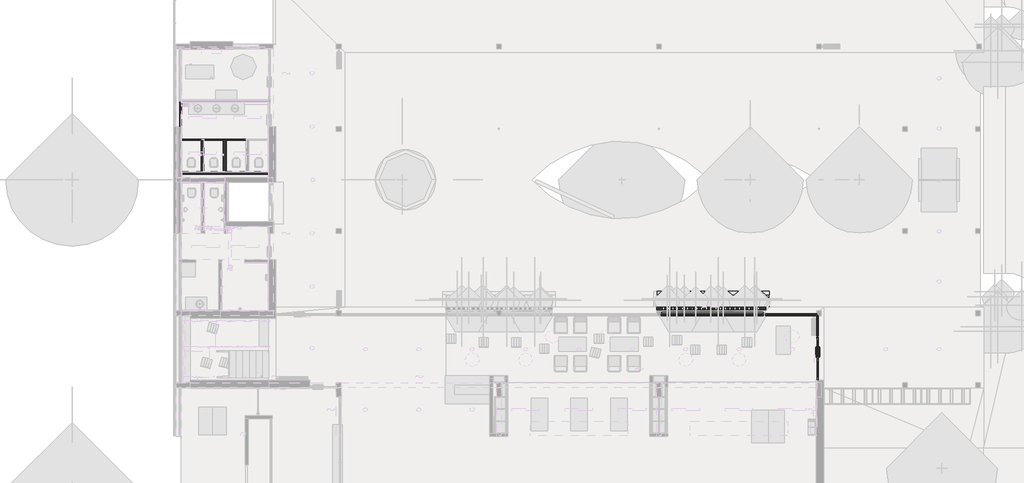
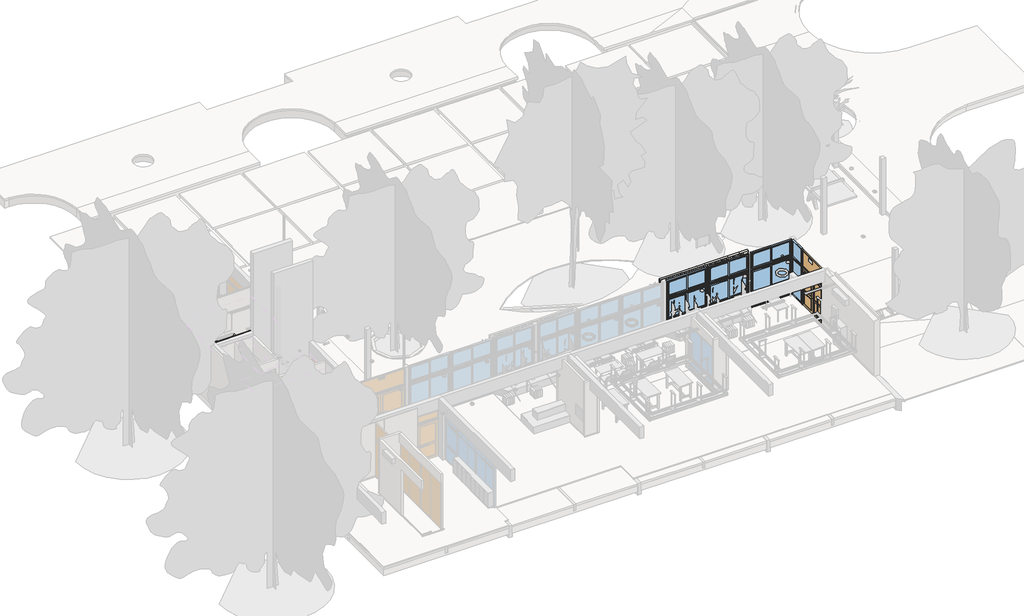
# One storey, part 4 of 22: 11 walls, 4 doors, 4 windows.
"""IFC4 building model written with IfcOpenShell, lengths in millimetres."""

from ifc_helpers import new_model, si_unit, point, frame, frame_2d, origin, place, context, project, spatial, polyline, circle_curve, trimmed, segment, composite_curve, outline, extrude, faceted_brep, transform, mapped, element, save
from components import door_487a2fcd, a15_puerta_boxes_a15_puerta_boxes_85x150_d28bf8b2, window_442d5369, window_79354036, a16_ventana_pc_1_hoja_a16_1_ventana_pc_1_hoja_86x300_f3b2f035, a16_ventana_pc_1_hoja_a16_4_ventana_pc_1_hoja_105x260_403ed5f2

model = new_model("IFC4")

# Units and contexts
model_context = context("Model", 3, world=origin())
ifc_project = project(units=[si_unit("LENGTHUNIT", "METRE", prefix="MILLI")], contexts=[model_context])

# Site, building, storey
site = spatial("IfcSite", under=ifc_project)
building = spatial("IfcBuilding", under=site)
storey = spatial("IfcBuildingStorey", under=building, Name="PLanta baja", Elevation=0.0)

# Doors
placement = place(None, origin())
door_shape = door_487a2fcd(model_context)
element("IfcDoor", 1, ObjectType="A1 Puerta batiente doble  VF superior : A1.4 Puerta batiente doble  VF superior 185x310", at=placement, inside=storey, context=model_context, shape_type="MappedRepresentation", body=[
    mapped(door_shape, transform((30826.2173693, 8256.4804035, -9.1219239), x_axis=(0.0, -1.0, 0.0), y_axis=(1.0, 0.0, 0.0), z_axis=(0.0, 0.0, 1.0))),
])
a15_puerta_boxes_a15_puerta_boxes_85x150_shape = a15_puerta_boxes_a15_puerta_boxes_85x150_d28bf8b2(model_context)
element("IfcDoor", 2, ObjectType="A15 Puerta boxes : A15 Puerta boxes 85x150", at=placement, inside=storey, context=model_context, shape_type="MappedRepresentation", body=[
    mapped(a15_puerta_boxes_a15_puerta_boxes_85x150_shape, transform((3831.2173694, 17682.7304035, 300.0), x_axis=(1.0, 0.0, 0.0), y_axis=(0.0, 1.0, 0.0), z_axis=(0.0, 0.0, 1.0))),
])
element("IfcDoor", 3, ObjectType="A15 Puerta boxes : A15 Puerta boxes 85x150", at=placement, inside=storey, context=model_context, shape_type="MappedRepresentation", body=[
    mapped(a15_puerta_boxes_a15_puerta_boxes_85x150_shape, transform((4796.2173694, 17682.7304035, 300.0), x_axis=(1.0, 0.0, 0.0), y_axis=(0.0, 1.0, 0.0), z_axis=(0.0, 0.0, 1.0))),
])
element("IfcDoor", 4, ObjectType="A15 Puerta boxes : A15 Puerta boxes 85x150", at=placement, inside=storey, context=model_context, shape_type="MappedRepresentation", body=[
    mapped(a15_puerta_boxes_a15_puerta_boxes_85x150_shape, transform((5761.2173694, 17682.7304035, 300.0), x_axis=(1.0, 0.0, 0.0), y_axis=(0.0, 1.0, 0.0), z_axis=(0.0, 0.0, 1.0))),
])

# Walls
element("IfcWall", 5, ObjectType="MURO-INT/INT-M22c-12cm-hceram210cm-PET", at=placement, inside=storey, context=model_context, shape_type="Brep", body=[
    faceted_brep([(4373.7173694, 17720.2304035, 2100.0), (4373.7173694, 16320.2304035, 2100.0), (4373.7173694, 16320.2304035, 2091.0), (4373.7173694, 16320.2304035, 0.0), (4373.7173694, 17720.2304035, 0.0), (4373.7173694, 17720.2304035, 2091.0), (4373.7173694, 17720.2304035, 2091.5), (4253.7173694, 16320.2304035, 2100.0), (4253.7173694, 17720.2304035, 2100.0), (4253.7173694, 17720.2304035, 2091.5), (4253.7173694, 17720.2304035, 2091.0), (4253.7173694, 17720.2304035, 0.0597053), (4253.7173694, 16320.2304035, 0.0), (4253.7173694, 16320.2304035, 2091.0), (4363.7173694, 16320.2304035, -50.0), (4263.7173694, 16320.2304035, -50.0), (4263.7173694, 17720.2304035, -50.0), (4363.7173694, 17720.2304035, -50.0), (4363.7173694, 17720.2304035, 0.0), (4263.7173694, 17720.2304035, 0.0), (4262.7173694, 17711.2304035, 2100.5), (4262.7173694, 16320.2304035, 2100.5), (4364.7173694, 16320.2304035, 2100.5), (4364.7173694, 17711.2304035, 2100.5), (4262.7173694, 16320.2304035, 2100.0), (4263.7173694, 16320.2304035, 0.0), (4363.7173694, 16320.2304035, 0.0), (4364.7173694, 16320.2304035, 2100.0), (4262.7173694, 17711.2304035, 2100.0), (4364.7173694, 17711.2304035, 2100.0)], [[[0, 1, 2, 3, 4, 5, 6]], [[7, 8, 9, 10, 11, 12, 13]], [[14, 15, 16, 17]], [[11, 10, 9, 8, 0, 6, 5, 4, 18, 17, 16, 19]], [[20, 21, 22, 23]], [[24, 7, 13, 12, 25, 15, 14, 26, 3, 2, 1, 27, 22, 21]], [[24, 28, 29, 27, 1, 0, 8, 7]], [[28, 24, 21, 20]], [[27, 29, 23, 22]], [[28, 20, 23, 29]], [[26, 18, 4, 3]], [[19, 25, 12, 11]], [[18, 26, 14, 17]], [[25, 19, 16, 15]]]),
])
element("IfcWall", 6, ObjectType="MURO-Ladrillo hormigón calado-10cm-PET", at=placement, inside=storey, context=model_context, shape_type="SweptSolid", body=[
    extrude(outline(polyline([(-50.0, 28588.7173693), (3100.0, 28588.7173693), (3100.0, 23888.7173694), (-50.0, 23888.7173694), (-50.0, 28588.7173693)]), holes=[polyline([(3090.0, 28228.7173696), (3090.0, 28328.7173699), (2950.0, 28328.7173699), (2950.0, 28228.7173696), (3090.0, 28228.7173696)]), polyline([(3090.0, 28028.7173694), (3090.0, 28128.7173696), (2950.0, 28128.7173696), (2950.0, 28028.7173694), (3090.0, 28028.7173694)]), polyline([(3090.0, 27823.7173694), (3090.0, 27923.7173697), (2950.0, 27923.7173697), (2950.0, 27823.7173694), (3090.0, 27823.7173694)]), polyline([(3090.0, 27623.7173692), (3090.0, 27723.7173694), (2950.0, 27723.7173694), (2950.0, 27623.7173692), (3090.0, 27623.7173692)]), polyline([(3090.0, 27413.7173694), (3090.0, 27513.7173697), (2950.0, 27513.7173697), (2950.0, 27413.7173694), (3090.0, 27413.7173694)]), polyline([(3090.0, 27213.7173692), (3090.0, 27313.7173694), (2950.0, 27313.7173694), (2950.0, 27213.7173692), (3090.0, 27213.7173692)]), polyline([(3090.0, 27008.7173692), (3090.0, 27108.7173694), (2950.0, 27108.7173694), (2950.0, 27008.7173692), (3090.0, 27008.7173692)]), polyline([(3090.0, 26808.717369), (3090.0, 26908.7173692), (2950.0, 26908.7173692), (2950.0, 26808.717369), (3090.0, 26808.717369)]), polyline([(3090.0, 26593.7173695), (3090.0, 26693.7173697), (2950.0, 26693.7173697), (2950.0, 26593.7173695), (3090.0, 26593.7173695)]), polyline([(3090.0, 26393.7173692), (3090.0, 26493.7173695), (2950.0, 26493.7173695), (2950.0, 26393.7173692), (3090.0, 26393.7173692)]), polyline([(3090.0, 26188.7173692), (3090.0, 26288.7173695), (2950.0, 26288.7173695), (2950.0, 26188.7173692), (3090.0, 26188.7173692)]), polyline([(3090.0, 25988.717369), (3090.0, 26088.7173692), (2950.0, 26088.7173692), (2950.0, 25988.717369), (3090.0, 25988.717369)]), polyline([(3090.0, 25778.7173693), (3090.0, 25878.7173695), (2950.0, 25878.7173695), (2950.0, 25778.7173693), (3090.0, 25778.7173693)]), polyline([(3090.0, 25578.717369), (3090.0, 25678.7173693), (2950.0, 25678.7173693), (2950.0, 25578.717369), (3090.0, 25578.717369)]), polyline([(3090.0, 25373.717369), (3090.0, 25473.7173693), (2950.0, 25473.7173693), (2950.0, 25373.717369), (3090.0, 25373.717369)]), polyline([(3090.0, 25173.7173688), (3090.0, 25273.717369), (2950.0, 25273.717369), (2950.0, 25173.7173688), (3090.0, 25173.7173688)]), polyline([(3090.0, 24953.7173695), (3090.0, 25053.7173697), (2950.0, 25053.7173697), (2950.0, 24953.7173695), (3090.0, 24953.7173695)]), polyline([(3090.0, 24753.7173693), (3090.0, 24853.7173695), (2950.0, 24853.7173695), (2950.0, 24753.7173693), (3090.0, 24753.7173693)]), polyline([(3090.0, 24548.7173693), (3090.0, 24648.7173695), (2950.0, 24648.7173695), (2950.0, 24548.7173693), (3090.0, 24548.7173693)]), polyline([(3090.0, 24348.7173691), (3090.0, 24448.7173693), (2950.0, 24448.7173693), (2950.0, 24348.7173691), (3090.0, 24348.7173691)]), polyline([(3090.0, 24138.7173693), (3090.0, 24238.7173695), (2950.0, 24238.7173695), (2950.0, 24138.7173693), (3090.0, 24138.7173693)]), polyline([(2790.0, 28228.7173696), (2790.0, 28328.7173699), (2650.0, 28328.7173699), (2650.0, 28228.7173696), (2790.0, 28228.7173696)]), polyline([(2790.0, 28028.7173694), (2790.0, 28128.7173696), (2650.0, 28128.7173696), (2650.0, 28028.7173694), (2790.0, 28028.7173694)]), polyline([(2790.0, 27823.7173694), (2790.0, 27923.7173697), (2650.0, 27923.7173697), (2650.0, 27823.7173694), (2790.0, 27823.7173694)]), polyline([(2790.0, 27623.7173692), (2790.0, 27723.7173694), (2650.0, 27723.7173694), (2650.0, 27623.7173692), (2790.0, 27623.7173692)]), polyline([(2790.0, 27413.7173694), (2790.0, 27513.7173697), (2650.0, 27513.7173697), (2650.0, 27413.7173694), (2790.0, 27413.7173694)]), polyline([(2790.0, 27213.7173692), (2790.0, 27313.7173694), (2650.0, 27313.7173694), (2650.0, 27213.7173692), (2790.0, 27213.7173692)]), polyline([(2790.0, 27008.7173692), (2790.0, 27108.7173694), (2650.0, 27108.7173694), (2650.0, 27008.7173692), (2790.0, 27008.7173692)]), polyline([(2790.0, 26808.717369), (2790.0, 26908.7173692), (2650.0, 26908.7173692), (2650.0, 26808.717369), (2790.0, 26808.717369)]), polyline([(2790.0, 26593.7173695), (2790.0, 26693.7173697), (2650.0, 26693.7173697), (2650.0, 26593.7173695), (2790.0, 26593.7173695)]), polyline([(2790.0, 26393.7173692), (2790.0, 26493.7173695), (2650.0, 26493.7173695), (2650.0, 26393.7173692), (2790.0, 26393.7173692)]), polyline([(2790.0, 26188.7173692), (2790.0, 26288.7173695), (2650.0, 26288.7173695), (2650.0, 26188.7173692), (2790.0, 26188.7173692)]), polyline([(2790.0, 25988.717369), (2790.0, 26088.7173692), (2650.0, 26088.7173692), (2650.0, 25988.717369), (2790.0, 25988.717369)]), polyline([(2790.0, 25778.7173693), (2790.0, 25878.7173695), (2650.0, 25878.7173695), (2650.0, 25778.7173693), (2790.0, 25778.7173693)]), polyline([(2790.0, 25578.717369), (2790.0, 25678.7173693), (2650.0, 25678.7173693), (2650.0, 25578.717369), (2790.0, 25578.717369)]), polyline([(2790.0, 25373.717369), (2790.0, 25473.7173693), (2650.0, 25473.7173693), (2650.0, 25373.717369), (2790.0, 25373.717369)]), polyline([(2790.0, 25173.7173688), (2790.0, 25273.717369), (2650.0, 25273.717369), (2650.0, 25173.7173688), (2790.0, 25173.7173688)]), polyline([(2790.0, 24953.7173695), (2790.0, 25053.7173697), (2650.0, 25053.7173697), (2650.0, 24953.7173695), (2790.0, 24953.7173695)]), polyline([(2790.0, 24753.7173693), (2790.0, 24853.7173695), (2650.0, 24853.7173695), (2650.0, 24753.7173693), (2790.0, 24753.7173693)]), polyline([(2790.0, 24548.7173693), (2790.0, 24648.7173695), (2650.0, 24648.7173695), (2650.0, 24548.7173693), (2790.0, 24548.7173693)]), polyline([(2790.0, 24348.7173691), (2790.0, 24448.7173693), (2650.0, 24448.7173693), (2650.0, 24348.7173691), (2790.0, 24348.7173691)]), polyline([(2790.0, 24138.7173693), (2790.0, 24238.7173695), (2650.0, 24238.7173695), (2650.0, 24138.7173693), (2790.0, 24138.7173693)]), polyline([(2490.0, 28228.7173696), (2490.0, 28328.7173699), (2350.0, 28328.7173699), (2350.0, 28228.7173696), (2490.0, 28228.7173696)]), polyline([(2490.0, 28028.7173694), (2490.0, 28128.7173696), (2350.0, 28128.7173696), (2350.0, 28028.7173694), (2490.0, 28028.7173694)]), polyline([(2490.0, 27823.7173694), (2490.0, 27923.7173697), (2350.0, 27923.7173697), (2350.0, 27823.7173694), (2490.0, 27823.7173694)]), polyline([(2490.0, 27623.7173692), (2490.0, 27723.7173694), (2350.0, 27723.7173694), (2350.0, 27623.7173692), (2490.0, 27623.7173692)]), polyline([(2490.0, 27413.7173694), (2490.0, 27513.7173697), (2350.0, 27513.7173697), (2350.0, 27413.7173694), (2490.0, 27413.7173694)]), polyline([(2490.0, 27213.7173692), (2490.0, 27313.7173694), (2350.0, 27313.7173694), (2350.0, 27213.7173692), (2490.0, 27213.7173692)]), polyline([(2490.0, 27008.7173692), (2490.0, 27108.7173694), (2350.0, 27108.7173694), (2350.0, 27008.7173692), (2490.0, 27008.7173692)]), polyline([(2490.0, 26808.717369), (2490.0, 26908.7173692), (2350.0, 26908.7173692), (2350.0, 26808.717369), (2490.0, 26808.717369)]), polyline([(2490.0, 26593.7173695), (2490.0, 26693.7173697), (2350.0, 26693.7173697), (2350.0, 26593.7173695), (2490.0, 26593.7173695)]), polyline([(2490.0, 26393.7173692), (2490.0, 26493.7173695), (2350.0, 26493.7173695), (2350.0, 26393.7173692), (2490.0, 26393.7173692)]), polyline([(2490.0, 26188.7173692), (2490.0, 26288.7173695), (2350.0, 26288.7173695), (2350.0, 26188.7173692), (2490.0, 26188.7173692)]), polyline([(2490.0, 25988.717369), (2490.0, 26088.7173692), (2350.0, 26088.7173692), (2350.0, 25988.717369), (2490.0, 25988.717369)]), polyline([(2490.0, 25778.7173693), (2490.0, 25878.7173695), (2350.0, 25878.7173695), (2350.0, 25778.7173693), (2490.0, 25778.7173693)]), polyline([(2490.0, 25578.717369), (2490.0, 25678.7173693), (2350.0, 25678.7173693), (2350.0, 25578.717369), (2490.0, 25578.717369)]), polyline([(2490.0, 25373.717369), (2490.0, 25473.7173693), (2350.0, 25473.7173693), (2350.0, 25373.717369), (2490.0, 25373.717369)]), polyline([(2490.0, 25173.7173688), (2490.0, 25273.717369), (2350.0, 25273.717369), (2350.0, 25173.7173688), (2490.0, 25173.7173688)]), polyline([(2490.0, 24953.7173695), (2490.0, 25053.7173697), (2350.0, 25053.7173697), (2350.0, 24953.7173695), (2490.0, 24953.7173695)]), polyline([(2490.0, 24753.7173693), (2490.0, 24853.7173695), (2350.0, 24853.7173695), (2350.0, 24753.7173693), (2490.0, 24753.7173693)]), polyline([(2490.0, 24548.7173693), (2490.0, 24648.7173695), (2350.0, 24648.7173695), (2350.0, 24548.7173693), (2490.0, 24548.7173693)]), polyline([(2490.0, 24348.7173691), (2490.0, 24448.7173693), (2350.0, 24448.7173693), (2350.0, 24348.7173691), (2490.0, 24348.7173691)]), polyline([(2490.0, 24138.7173693), (2490.0, 24238.7173695), (2350.0, 24238.7173695), (2350.0, 24138.7173693), (2490.0, 24138.7173693)]), polyline([(2190.0, 28228.7173696), (2190.0, 28328.7173699), (2050.0, 28328.7173699), (2050.0, 28228.7173696), (2190.0, 28228.7173696)]), polyline([(2190.0, 28028.7173694), (2190.0, 28128.7173696), (2050.0, 28128.7173696), (2050.0, 28028.7173694), (2190.0, 28028.7173694)]), polyline([(2190.0, 27823.7173694), (2190.0, 27923.7173697), (2050.0, 27923.7173697), (2050.0, 27823.7173694), (2190.0, 27823.7173694)]), polyline([(2190.0, 27623.7173692), (2190.0, 27723.7173694), (2050.0, 27723.7173694), (2050.0, 27623.7173692), (2190.0, 27623.7173692)]), polyline([(2190.0, 27413.7173694), (2190.0, 27513.7173697), (2050.0, 27513.7173697), (2050.0, 27413.7173694), (2190.0, 27413.7173694)]), polyline([(2190.0, 27213.7173692), (2190.0, 27313.7173694), (2050.0, 27313.7173694), (2050.0, 27213.7173692), (2190.0, 27213.7173692)]), polyline([(2190.0, 27008.7173692), (2190.0, 27108.7173694), (2050.0, 27108.7173694), (2050.0, 27008.7173692), (2190.0, 27008.7173692)]), polyline([(2190.0, 26808.717369), (2190.0, 26908.7173692), (2050.0, 26908.7173692), (2050.0, 26808.717369), (2190.0, 26808.717369)]), polyline([(2190.0, 26593.7173695), (2190.0, 26693.7173697), (2050.0, 26693.7173697), (2050.0, 26593.7173695), (2190.0, 26593.7173695)]), polyline([(2190.0, 26393.7173692), (2190.0, 26493.7173695), (2050.0, 26493.7173695), (2050.0, 26393.7173692), (2190.0, 26393.7173692)]), polyline([(2190.0, 26188.7173692), (2190.0, 26288.7173695), (2050.0, 26288.7173695), (2050.0, 26188.7173692), (2190.0, 26188.7173692)]), polyline([(2190.0, 25988.717369), (2190.0, 26088.7173692), (2050.0, 26088.7173692), (2050.0, 25988.717369), (2190.0, 25988.717369)]), polyline([(2190.0, 25778.7173693), (2190.0, 25878.7173695), (2050.0, 25878.7173695), (2050.0, 25778.7173693), (2190.0, 25778.7173693)]), polyline([(2190.0, 25578.717369), (2190.0, 25678.7173693), (2050.0, 25678.7173693), (2050.0, 25578.717369), (2190.0, 25578.717369)]), polyline([(2190.0, 25373.717369), (2190.0, 25473.7173693), (2050.0, 25473.7173693), (2050.0, 25373.717369), (2190.0, 25373.717369)]), polyline([(2190.0, 25173.7173688), (2190.0, 25273.717369), (2050.0, 25273.717369), (2050.0, 25173.7173688), (2190.0, 25173.7173688)]), polyline([(2190.0, 24953.7173695), (2190.0, 25053.7173697), (2050.0, 25053.7173697), (2050.0, 24953.7173695), (2190.0, 24953.7173695)]), polyline([(2190.0, 24753.7173693), (2190.0, 24853.7173695), (2050.0, 24853.7173695), (2050.0, 24753.7173693), (2190.0, 24753.7173693)]), polyline([(2190.0, 24548.7173693), (2190.0, 24648.7173695), (2050.0, 24648.7173695), (2050.0, 24548.7173693), (2190.0, 24548.7173693)]), polyline([(2190.0, 24348.7173691), (2190.0, 24448.7173693), (2050.0, 24448.7173693), (2050.0, 24348.7173691), (2190.0, 24348.7173691)]), polyline([(2190.0, 24138.7173693), (2190.0, 24238.7173695), (2050.0, 24238.7173695), (2050.0, 24138.7173693), (2190.0, 24138.7173693)]), polyline([(1890.0, 28228.7173696), (1890.0, 28328.7173699), (1750.0, 28328.7173699), (1750.0, 28228.7173696), (1890.0, 28228.7173696)]), polyline([(1890.0, 28028.7173694), (1890.0, 28128.7173696), (1750.0, 28128.7173696), (1750.0, 28028.7173694), (1890.0, 28028.7173694)]), polyline([(1890.0, 27823.7173694), (1890.0, 27923.7173697), (1750.0, 27923.7173697), (1750.0, 27823.7173694), (1890.0, 27823.7173694)]), polyline([(1890.0, 27623.7173692), (1890.0, 27723.7173694), (1750.0, 27723.7173694), (1750.0, 27623.7173692), (1890.0, 27623.7173692)]), polyline([(1890.0, 27413.7173694), (1890.0, 27513.7173697), (1750.0, 27513.7173697), (1750.0, 27413.7173694), (1890.0, 27413.7173694)]), polyline([(1890.0, 27213.7173692), (1890.0, 27313.7173694), (1750.0, 27313.7173694), (1750.0, 27213.7173692), (1890.0, 27213.7173692)]), polyline([(1890.0, 27008.7173692), (1890.0, 27108.7173694), (1750.0, 27108.7173694), (1750.0, 27008.7173692), (1890.0, 27008.7173692)]), polyline([(1890.0, 26808.717369), (1890.0, 26908.7173692), (1750.0, 26908.7173692), (1750.0, 26808.717369), (1890.0, 26808.717369)]), polyline([(1890.0, 26593.7173695), (1890.0, 26693.7173697), (1750.0, 26693.7173697), (1750.0, 26593.7173695), (1890.0, 26593.7173695)]), polyline([(1890.0, 26393.7173692), (1890.0, 26493.7173695), (1750.0, 26493.7173695), (1750.0, 26393.7173692), (1890.0, 26393.7173692)]), polyline([(1890.0, 26188.7173692), (1890.0, 26288.7173695), (1750.0, 26288.7173695), (1750.0, 26188.7173692), (1890.0, 26188.7173692)]), polyline([(1890.0, 25988.717369), (1890.0, 26088.7173692), (1750.0, 26088.7173692), (1750.0, 25988.717369), (1890.0, 25988.717369)]), polyline([(1890.0, 25778.7173693), (1890.0, 25878.7173695), (1750.0, 25878.7173695), (1750.0, 25778.7173693), (1890.0, 25778.7173693)]), polyline([(1890.0, 25578.717369), (1890.0, 25678.7173693), (1750.0, 25678.7173693), (1750.0, 25578.717369), (1890.0, 25578.717369)]), polyline([(1890.0, 25373.717369), (1890.0, 25473.7173693), (1750.0, 25473.7173693), (1750.0, 25373.717369), (1890.0, 25373.717369)]), polyline([(1890.0, 25173.7173688), (1890.0, 25273.717369), (1750.0, 25273.717369), (1750.0, 25173.7173688), (1890.0, 25173.7173688)]), polyline([(1890.0, 24953.7173695), (1890.0, 25053.7173697), (1750.0, 25053.7173697), (1750.0, 24953.7173695), (1890.0, 24953.7173695)]), polyline([(1890.0, 24753.7173693), (1890.0, 24853.7173695), (1750.0, 24853.7173695), (1750.0, 24753.7173693), (1890.0, 24753.7173693)]), polyline([(1890.0, 24548.7173693), (1890.0, 24648.7173695), (1750.0, 24648.7173695), (1750.0, 24548.7173693), (1890.0, 24548.7173693)]), polyline([(1890.0, 24348.7173691), (1890.0, 24448.7173693), (1750.0, 24448.7173693), (1750.0, 24348.7173691), (1890.0, 24348.7173691)]), polyline([(1890.0, 24138.7173693), (1890.0, 24238.7173695), (1750.0, 24238.7173695), (1750.0, 24138.7173693), (1890.0, 24138.7173693)]), polyline([(1590.0, 28228.7173696), (1590.0, 28328.7173699), (1450.0, 28328.7173699), (1450.0, 28228.7173696), (1590.0, 28228.7173696)]), polyline([(1590.0, 28028.7173694), (1590.0, 28128.7173696), (1450.0, 28128.7173696), (1450.0, 28028.7173694), (1590.0, 28028.7173694)]), polyline([(1590.0, 27823.7173694), (1590.0, 27923.7173697), (1450.0, 27923.7173697), (1450.0, 27823.7173694), (1590.0, 27823.7173694)]), polyline([(1590.0, 27623.7173692), (1590.0, 27723.7173694), (1450.0, 27723.7173694), (1450.0, 27623.7173692), (1590.0, 27623.7173692)]), polyline([(1590.0, 27413.7173694), (1590.0, 27513.7173697), (1450.0, 27513.7173697), (1450.0, 27413.7173694), (1590.0, 27413.7173694)]), polyline([(1590.0, 27213.7173692), (1590.0, 27313.7173694), (1450.0, 27313.7173694), (1450.0, 27213.7173692), (1590.0, 27213.7173692)]), polyline([(1590.0, 27008.7173692), (1590.0, 27108.7173694), (1450.0, 27108.7173694), (1450.0, 27008.7173692), (1590.0, 27008.7173692)]), polyline([(1590.0, 26808.717369), (1590.0, 26908.7173692), (1450.0, 26908.7173692), (1450.0, 26808.717369), (1590.0, 26808.717369)]), polyline([(1590.0, 26593.7173695), (1590.0, 26693.7173697), (1450.0, 26693.7173697), (1450.0, 26593.7173695), (1590.0, 26593.7173695)]), polyline([(1590.0, 26393.7173692), (1590.0, 26493.7173695), (1450.0, 26493.7173695), (1450.0, 26393.7173692), (1590.0, 26393.7173692)]), polyline([(1590.0, 26188.7173692), (1590.0, 26288.7173695), (1450.0, 26288.7173695), (1450.0, 26188.7173692), (1590.0, 26188.7173692)]), polyline([(1590.0, 25988.717369), (1590.0, 26088.7173692), (1450.0, 26088.7173692), (1450.0, 25988.717369), (1590.0, 25988.717369)]), polyline([(1590.0, 25778.7173693), (1590.0, 25878.7173695), (1450.0, 25878.7173695), (1450.0, 25778.7173693), (1590.0, 25778.7173693)]), polyline([(1590.0, 25578.717369), (1590.0, 25678.7173693), (1450.0, 25678.7173693), (1450.0, 25578.717369), (1590.0, 25578.717369)]), polyline([(1590.0, 25373.717369), (1590.0, 25473.7173693), (1450.0, 25473.7173693), (1450.0, 25373.717369), (1590.0, 25373.717369)]), polyline([(1590.0, 25173.7173688), (1590.0, 25273.717369), (1450.0, 25273.717369), (1450.0, 25173.7173688), (1590.0, 25173.7173688)]), polyline([(1590.0, 24953.7173695), (1590.0, 25053.7173697), (1450.0, 25053.7173697), (1450.0, 24953.7173695), (1590.0, 24953.7173695)]), polyline([(1590.0, 24753.7173693), (1590.0, 24853.7173695), (1450.0, 24853.7173695), (1450.0, 24753.7173693), (1590.0, 24753.7173693)]), polyline([(1590.0, 24548.7173693), (1590.0, 24648.7173695), (1450.0, 24648.7173695), (1450.0, 24548.7173693), (1590.0, 24548.7173693)]), polyline([(1590.0, 24348.7173691), (1590.0, 24448.7173693), (1450.0, 24448.7173693), (1450.0, 24348.7173691), (1590.0, 24348.7173691)]), polyline([(1590.0, 24138.7173693), (1590.0, 24238.7173695), (1450.0, 24238.7173695), (1450.0, 24138.7173693), (1590.0, 24138.7173693)]), polyline([(1290.0, 28228.7173696), (1290.0, 28328.7173699), (1150.0, 28328.7173699), (1150.0, 28228.7173696), (1290.0, 28228.7173696)]), polyline([(1290.0, 28028.7173694), (1290.0, 28128.7173696), (1150.0, 28128.7173696), (1150.0, 28028.7173694), (1290.0, 28028.7173694)]), polyline([(1290.0, 27823.7173694), (1290.0, 27923.7173697), (1150.0, 27923.7173697), (1150.0, 27823.7173694), (1290.0, 27823.7173694)]), polyline([(1290.0, 27623.7173692), (1290.0, 27723.7173694), (1150.0, 27723.7173694), (1150.0, 27623.7173692), (1290.0, 27623.7173692)]), polyline([(1290.0, 27413.7173694), (1290.0, 27513.7173697), (1150.0, 27513.7173697), (1150.0, 27413.7173694), (1290.0, 27413.7173694)]), polyline([(1290.0, 27213.7173692), (1290.0, 27313.7173694), (1150.0, 27313.7173694), (1150.0, 27213.7173692), (1290.0, 27213.7173692)]), polyline([(1290.0, 27008.7173692), (1290.0, 27108.7173694), (1150.0, 27108.7173694), (1150.0, 27008.7173692), (1290.0, 27008.7173692)]), polyline([(1290.0, 26808.717369), (1290.0, 26908.7173692), (1150.0, 26908.7173692), (1150.0, 26808.717369), (1290.0, 26808.717369)]), polyline([(1290.0, 26593.7173695), (1290.0, 26693.7173697), (1150.0, 26693.7173697), (1150.0, 26593.7173695), (1290.0, 26593.7173695)]), polyline([(1290.0, 26393.7173692), (1290.0, 26493.7173695), (1150.0, 26493.7173695), (1150.0, 26393.7173692), (1290.0, 26393.7173692)]), polyline([(1290.0, 26188.7173692), (1290.0, 26288.7173695), (1150.0, 26288.7173695), (1150.0, 26188.7173692), (1290.0, 26188.7173692)]), polyline([(1290.0, 25988.717369), (1290.0, 26088.7173692), (1150.0, 26088.7173692), (1150.0, 25988.717369), (1290.0, 25988.717369)]), polyline([(1290.0, 25778.7173693), (1290.0, 25878.7173695), (1150.0, 25878.7173695), (1150.0, 25778.7173693), (1290.0, 25778.7173693)]), polyline([(1290.0, 25578.717369), (1290.0, 25678.7173693), (1150.0, 25678.7173693), (1150.0, 25578.717369), (1290.0, 25578.717369)]), polyline([(1290.0, 25373.717369), (1290.0, 25473.7173693), (1150.0, 25473.7173693), (1150.0, 25373.717369), (1290.0, 25373.717369)]), polyline([(1290.0, 25173.7173688), (1290.0, 25273.717369), (1150.0, 25273.717369), (1150.0, 25173.7173688), (1290.0, 25173.7173688)]), polyline([(1290.0, 24953.7173695), (1290.0, 25053.7173697), (1150.0, 25053.7173697), (1150.0, 24953.7173695), (1290.0, 24953.7173695)]), polyline([(1290.0, 24753.7173693), (1290.0, 24853.7173695), (1150.0, 24853.7173695), (1150.0, 24753.7173693), (1290.0, 24753.7173693)]), polyline([(1290.0, 24548.7173693), (1290.0, 24648.7173695), (1150.0, 24648.7173695), (1150.0, 24548.7173693), (1290.0, 24548.7173693)]), polyline([(1290.0, 24348.7173691), (1290.0, 24448.7173693), (1150.0, 24448.7173693), (1150.0, 24348.7173691), (1290.0, 24348.7173691)]), polyline([(1290.0, 24138.7173693), (1290.0, 24238.7173695), (1150.0, 24238.7173695), (1150.0, 24138.7173693), (1290.0, 24138.7173693)]), polyline([(990.0, 28228.7173696), (990.0, 28328.7173699), (850.0, 28328.7173699), (850.0, 28228.7173696), (990.0, 28228.7173696)]), polyline([(990.0, 28028.7173694), (990.0, 28128.7173696), (850.0, 28128.7173696), (850.0, 28028.7173694), (990.0, 28028.7173694)]), polyline([(990.0, 27823.7173694), (990.0, 27923.7173697), (850.0, 27923.7173697), (850.0, 27823.7173694), (990.0, 27823.7173694)]), polyline([(990.0, 27623.7173692), (990.0, 27723.7173694), (850.0, 27723.7173694), (850.0, 27623.7173692), (990.0, 27623.7173692)]), polyline([(990.0, 27413.7173694), (990.0, 27513.7173697), (850.0, 27513.7173697), (850.0, 27413.7173694), (990.0, 27413.7173694)]), polyline([(990.0, 27213.7173692), (990.0, 27313.7173694), (850.0, 27313.7173694), (850.0, 27213.7173692), (990.0, 27213.7173692)]), polyline([(990.0, 27008.7173692), (990.0, 27108.7173694), (850.0, 27108.7173694), (850.0, 27008.7173692), (990.0, 27008.7173692)]), polyline([(990.0, 26808.717369), (990.0, 26908.7173692), (850.0, 26908.7173692), (850.0, 26808.717369), (990.0, 26808.717369)]), polyline([(990.0, 26593.7173695), (990.0, 26693.7173697), (850.0, 26693.7173697), (850.0, 26593.7173695), (990.0, 26593.7173695)]), polyline([(990.0, 26393.7173692), (990.0, 26493.7173695), (850.0, 26493.7173695), (850.0, 26393.7173692), (990.0, 26393.7173692)]), polyline([(990.0, 26188.7173692), (990.0, 26288.7173695), (850.0, 26288.7173695), (850.0, 26188.7173692), (990.0, 26188.7173692)]), polyline([(990.0, 25988.717369), (990.0, 26088.7173692), (850.0, 26088.7173692), (850.0, 25988.717369), (990.0, 25988.717369)]), polyline([(990.0, 25778.7173693), (990.0, 25878.7173695), (850.0, 25878.7173695), (850.0, 25778.7173693), (990.0, 25778.7173693)]), polyline([(990.0, 25578.717369), (990.0, 25678.7173693), (850.0, 25678.7173693), (850.0, 25578.717369), (990.0, 25578.717369)]), polyline([(990.0, 25373.717369), (990.0, 25473.7173693), (850.0, 25473.7173693), (850.0, 25373.717369), (990.0, 25373.717369)]), polyline([(990.0, 25173.7173688), (990.0, 25273.717369), (850.0, 25273.717369), (850.0, 25173.7173688), (990.0, 25173.7173688)]), polyline([(990.0, 24953.7173695), (990.0, 25053.7173697), (850.0, 25053.7173697), (850.0, 24953.7173695), (990.0, 24953.7173695)]), polyline([(990.0, 24753.7173693), (990.0, 24853.7173695), (850.0, 24853.7173695), (850.0, 24753.7173693), (990.0, 24753.7173693)]), polyline([(990.0, 24548.7173693), (990.0, 24648.7173695), (850.0, 24648.7173695), (850.0, 24548.7173693), (990.0, 24548.7173693)]), polyline([(990.0, 24348.7173691), (990.0, 24448.7173693), (850.0, 24448.7173693), (850.0, 24348.7173691), (990.0, 24348.7173691)]), polyline([(990.0, 24138.7173693), (990.0, 24238.7173695), (850.0, 24238.7173695), (850.0, 24138.7173693), (990.0, 24138.7173693)]), polyline([(690.0, 28228.7173696), (690.0, 28328.7173699), (550.0, 28328.7173699), (550.0, 28228.7173696), (690.0, 28228.7173696)]), polyline([(690.0, 28028.7173694), (690.0, 28128.7173696), (550.0, 28128.7173696), (550.0, 28028.7173694), (690.0, 28028.7173694)]), polyline([(690.0, 27823.7173694), (690.0, 27923.7173697), (550.0, 27923.7173697), (550.0, 27823.7173694), (690.0, 27823.7173694)]), polyline([(690.0, 27623.7173692), (690.0, 27723.7173694), (550.0, 27723.7173694), (550.0, 27623.7173692), (690.0, 27623.7173692)]), polyline([(690.0, 27413.7173694), (690.0, 27513.7173697), (550.0, 27513.7173697), (550.0, 27413.7173694), (690.0, 27413.7173694)]), polyline([(690.0, 27213.7173692), (690.0, 27313.7173694), (550.0, 27313.7173694), (550.0, 27213.7173692), (690.0, 27213.7173692)]), polyline([(690.0, 27008.7173692), (690.0, 27108.7173694), (550.0, 27108.7173694), (550.0, 27008.7173692), (690.0, 27008.7173692)]), polyline([(690.0, 26808.717369), (690.0, 26908.7173692), (550.0, 26908.7173692), (550.0, 26808.717369), (690.0, 26808.717369)]), polyline([(690.0, 26593.7173695), (690.0, 26693.7173697), (550.0, 26693.7173697), (550.0, 26593.7173695), (690.0, 26593.7173695)]), polyline([(690.0, 26393.7173692), (690.0, 26493.7173695), (550.0, 26493.7173695), (550.0, 26393.7173692), (690.0, 26393.7173692)]), polyline([(690.0, 26188.7173692), (690.0, 26288.7173695), (550.0, 26288.7173695), (550.0, 26188.7173692), (690.0, 26188.7173692)]), polyline([(690.0, 25988.717369), (690.0, 26088.7173692), (550.0, 26088.7173692), (550.0, 25988.717369), (690.0, 25988.717369)]), polyline([(690.0, 25778.7173693), (690.0, 25878.7173695), (550.0, 25878.7173695), (550.0, 25778.7173693), (690.0, 25778.7173693)]), polyline([(690.0, 25578.717369), (690.0, 25678.7173693), (550.0, 25678.7173693), (550.0, 25578.717369), (690.0, 25578.717369)]), polyline([(690.0, 25373.717369), (690.0, 25473.7173693), (550.0, 25473.7173693), (550.0, 25373.717369), (690.0, 25373.717369)]), polyline([(690.0, 25173.7173688), (690.0, 25273.717369), (550.0, 25273.717369), (550.0, 25173.7173688), (690.0, 25173.7173688)]), polyline([(690.0, 24953.7173695), (690.0, 25053.7173697), (550.0, 25053.7173697), (550.0, 24953.7173695), (690.0, 24953.7173695)]), polyline([(690.0, 24753.7173693), (690.0, 24853.7173695), (550.0, 24853.7173695), (550.0, 24753.7173693), (690.0, 24753.7173693)]), polyline([(690.0, 24548.7173693), (690.0, 24648.7173695), (550.0, 24648.7173695), (550.0, 24548.7173693), (690.0, 24548.7173693)]), polyline([(690.0, 24348.7173691), (690.0, 24448.7173693), (550.0, 24448.7173693), (550.0, 24348.7173691), (690.0, 24348.7173691)]), polyline([(690.0, 24138.7173693), (690.0, 24238.7173695), (550.0, 24238.7173695), (550.0, 24138.7173693), (690.0, 24138.7173693)]), polyline([(390.0, 28228.7173696), (390.0, 28328.7173699), (250.0, 28328.7173699), (250.0, 28228.7173696), (390.0, 28228.7173696)]), polyline([(390.0, 28028.7173694), (390.0, 28128.7173696), (250.0, 28128.7173696), (250.0, 28028.7173694), (390.0, 28028.7173694)]), polyline([(390.0, 27823.7173694), (390.0, 27923.7173697), (250.0, 27923.7173697), (250.0, 27823.7173694), (390.0, 27823.7173694)]), polyline([(390.0, 27623.7173692), (390.0, 27723.7173694), (250.0, 27723.7173694), (250.0, 27623.7173692), (390.0, 27623.7173692)]), polyline([(390.0, 27413.7173694), (390.0, 27513.7173697), (250.0, 27513.7173697), (250.0, 27413.7173694), (390.0, 27413.7173694)]), polyline([(390.0, 27213.7173692), (390.0, 27313.7173694), (250.0, 27313.7173694), (250.0, 27213.7173692), (390.0, 27213.7173692)]), polyline([(390.0, 27008.7173692), (390.0, 27108.7173694), (250.0, 27108.7173694), (250.0, 27008.7173692), (390.0, 27008.7173692)]), polyline([(390.0, 26808.717369), (390.0, 26908.7173692), (250.0, 26908.7173692), (250.0, 26808.717369), (390.0, 26808.717369)]), polyline([(390.0, 26593.7173695), (390.0, 26693.7173697), (250.0, 26693.7173697), (250.0, 26593.7173695), (390.0, 26593.7173695)]), polyline([(390.0, 26393.7173692), (390.0, 26493.7173695), (250.0, 26493.7173695), (250.0, 26393.7173692), (390.0, 26393.7173692)]), polyline([(390.0, 26188.7173692), (390.0, 26288.7173695), (250.0, 26288.7173695), (250.0, 26188.7173692), (390.0, 26188.7173692)]), polyline([(390.0, 25988.717369), (390.0, 26088.7173692), (250.0, 26088.7173692), (250.0, 25988.717369), (390.0, 25988.717369)]), polyline([(390.0, 25778.7173693), (390.0, 25878.7173695), (250.0, 25878.7173695), (250.0, 25778.7173693), (390.0, 25778.7173693)]), polyline([(390.0, 25578.717369), (390.0, 25678.7173693), (250.0, 25678.7173693), (250.0, 25578.717369), (390.0, 25578.717369)]), polyline([(390.0, 25373.717369), (390.0, 25473.7173693), (250.0, 25473.7173693), (250.0, 25373.717369), (390.0, 25373.717369)]), polyline([(390.0, 25173.7173688), (390.0, 25273.717369), (250.0, 25273.717369), (250.0, 25173.7173688), (390.0, 25173.7173688)]), polyline([(390.0, 24953.7173695), (390.0, 25053.7173697), (250.0, 25053.7173697), (250.0, 24953.7173695), (390.0, 24953.7173695)]), polyline([(390.0, 24753.7173693), (390.0, 24853.7173695), (250.0, 24853.7173695), (250.0, 24753.7173693), (390.0, 24753.7173693)]), polyline([(390.0, 24548.7173693), (390.0, 24648.7173695), (250.0, 24648.7173695), (250.0, 24548.7173693), (390.0, 24548.7173693)]), polyline([(390.0, 24348.7173691), (390.0, 24448.7173693), (250.0, 24448.7173693), (250.0, 24348.7173691), (390.0, 24348.7173691)]), polyline([(390.0, 24138.7173693), (390.0, 24238.7173695), (250.0, 24238.7173695), (250.0, 24138.7173693), (390.0, 24138.7173693)]), polyline([(90.0, 28228.7173696), (90.0, 28328.7173699), (-40.0, 28328.7173699), (-40.0, 28228.7173696), (90.0, 28228.7173696)]), polyline([(90.0, 28028.7173694), (90.0, 28128.7173696), (-40.0, 28128.7173696), (-40.0, 28028.7173694), (90.0, 28028.7173694)]), polyline([(90.0, 27823.7173694), (90.0, 27923.7173697), (-40.0, 27923.7173697), (-40.0, 27823.7173694), (90.0, 27823.7173694)]), polyline([(90.0, 27623.7173692), (90.0, 27723.7173694), (-40.0, 27723.7173694), (-40.0, 27623.7173692), (90.0, 27623.7173692)]), polyline([(90.0, 27413.7173694), (90.0, 27513.7173697), (-40.0, 27513.7173697), (-40.0, 27413.7173694), (90.0, 27413.7173694)]), polyline([(90.0, 27213.7173692), (90.0, 27313.7173694), (-40.0, 27313.7173694), (-40.0, 27213.7173692), (90.0, 27213.7173692)]), polyline([(90.0, 27008.7173692), (90.0, 27108.7173694), (-40.0, 27108.7173694), (-40.0, 27008.7173692), (90.0, 27008.7173692)]), polyline([(90.0, 26808.717369), (90.0, 26908.7173692), (-40.0, 26908.7173692), (-40.0, 26808.717369), (90.0, 26808.717369)]), polyline([(90.0, 26593.7173695), (90.0, 26693.7173697), (-40.0, 26693.7173697), (-40.0, 26593.7173695), (90.0, 26593.7173695)]), polyline([(90.0, 26393.7173692), (90.0, 26493.7173695), (-40.0, 26493.7173695), (-40.0, 26393.7173692), (90.0, 26393.7173692)]), polyline([(90.0, 26188.7173692), (90.0, 26288.7173695), (-40.0, 26288.7173695), (-40.0, 26188.7173692), (90.0, 26188.7173692)]), polyline([(90.0, 25988.717369), (90.0, 26088.7173692), (-40.0, 26088.7173692), (-40.0, 25988.717369), (90.0, 25988.717369)]), polyline([(90.0, 25778.7173693), (90.0, 25878.7173695), (-40.0, 25878.7173695), (-40.0, 25778.7173693), (90.0, 25778.7173693)]), polyline([(90.0, 25578.717369), (90.0, 25678.7173693), (-40.0, 25678.7173693), (-40.0, 25578.717369), (90.0, 25578.717369)]), polyline([(90.0, 25373.717369), (90.0, 25473.7173693), (-40.0, 25473.7173693), (-40.0, 25373.717369), (90.0, 25373.717369)]), polyline([(90.0, 25173.7173688), (90.0, 25273.717369), (-40.0, 25273.717369), (-40.0, 25173.7173688), (90.0, 25173.7173688)]), polyline([(90.0, 24953.7173695), (90.0, 25053.7173697), (-40.0, 25053.7173697), (-40.0, 24953.7173695), (90.0, 24953.7173695)]), polyline([(90.0, 24753.7173693), (90.0, 24853.7173695), (-40.0, 24853.7173695), (-40.0, 24753.7173693), (90.0, 24753.7173693)]), polyline([(90.0, 24548.7173693), (90.0, 24648.7173695), (-40.0, 24648.7173695), (-40.0, 24548.7173693), (90.0, 24548.7173693)]), polyline([(90.0, 24348.7173691), (90.0, 24448.7173693), (-40.0, 24448.7173693), (-40.0, 24348.7173691), (90.0, 24348.7173691)]), polyline([(90.0, 24138.7173693), (90.0, 24238.7173695), (-40.0, 24238.7173695), (-40.0, 24138.7173693), (90.0, 24138.7173693)])]), frame((0.0, 10370.2304035, 0.0), z_axis=(0.0, 1.0, 0.0), x_axis=(0.0, 0.0, 1.0)), (0.0, 0.0, 1.0), 100.0),
])
element("IfcWall", 7, ObjectType="MURO-INT/INT-M22c-12cm-hceram210cm-PET", at=placement, inside=storey, context=model_context, shape_type="Brep", body=[
    faceted_brep([(5338.7173694, 17720.2304035, 2100.0), (5338.7173694, 16320.2304035, 2100.0), (5338.7173694, 16320.2304035, 2091.0), (5338.7173694, 16320.2304035, 0.0), (5338.7173694, 17720.2304035, 0.0), (5338.7173694, 17720.2304035, 2091.0), (5338.7173694, 17720.2304035, 2091.5), (5218.7173694, 16320.2304035, 2100.0), (5218.7173694, 17720.2304035, 2100.0), (5218.7173694, 17720.2304035, 2091.5), (5218.7173694, 17720.2304035, 2091.0), (5218.7173694, 17720.2304035, -0.0145135), (5218.7173694, 16320.2304035, 0.0), (5218.7173694, 16320.2304035, 2091.0), (5328.7173694, 16320.2304035, -50.0), (5228.7173694, 16320.2304035, -50.0), (5228.7173694, 17720.2304035, -50.0), (5328.7173694, 17720.2304035, -50.0), (5328.7173694, 17720.2304035, 0.0), (5228.7173694, 17720.2304035, 0.0), (5227.7173694, 17711.2304035, 2100.5), (5227.7173694, 16320.2304035, 2100.5), (5329.7173694, 16320.2304035, 2100.5), (5329.7173694, 17711.2304035, 2100.5), (5227.7173694, 16320.2304035, 2100.0), (5228.7173694, 16320.2304035, 0.0), (5328.7173694, 16320.2304035, 0.0), (5329.7173694, 16320.2304035, 2100.0), (5227.7173694, 17711.2304035, 2100.0), (5329.7173694, 17711.2304035, 2100.0)], [[[0, 1, 2, 3, 4, 5, 6]], [[7, 8, 9, 10, 11, 12, 13]], [[14, 15, 16, 17]], [[11, 10, 9, 8, 0, 6, 5, 4, 18, 17, 16, 19]], [[20, 21, 22, 23]], [[24, 7, 13, 12, 25, 15, 14, 26, 3, 2, 1, 27, 22, 21]], [[24, 28, 29, 27, 1, 0, 8, 7]], [[28, 24, 21, 20]], [[27, 29, 23, 22]], [[28, 20, 23, 29]], [[26, 18, 4, 3]], [[19, 25, 12, 11]], [[18, 26, 14, 17]], [[25, 19, 16, 15]]]),
])
element("IfcWall", 8, ObjectType="MURO-INT/INT-M22c-12cm-hceram210cm-PET", at=placement, inside=storey, context=model_context, shape_type="SweptSolid", body=[
    extrude(outline(polyline([(3713.8731174, 18890.2304035), (3713.8731174, 19310.2304035), (3833.8731174, 19310.2304035), (3833.8731174, 18890.2304035), (3713.8731174, 18890.2304035)])), frame((0.0, 0.0, -40.0), z_axis=(0.0, 0.0, 1.0), x_axis=(1.0, 0.0, 0.0)), (0.0, 0.0, 1.0), 810.0),
])
element("IfcWall", 9, ObjectType="MURO-INT/INT-M22d-10cm-hceram210cm-PET", at=placement, inside=storey, context=model_context, shape_type="Brep", body=[
    faceted_brep([(3408.7173694, 16320.2304035, 3100.0), (7148.7173694, 16320.2304035, 3100.0), (7148.7173694, 16320.2304035, 2103.3), (3408.7173694, 16320.2304035, 2103.3), (3408.7173694, 16320.2304035, 2100.0), (4253.7173694, 16320.2304035, 2100.0), (4262.7173694, 16320.2304035, 2100.0), (4364.7173694, 16320.2304035, 2100.0), (4373.7173694, 16320.2304035, 2100.0), (5218.7173694, 16320.2304035, 2100.0), (5227.7173694, 16320.2304035, 2100.0), (5329.7173694, 16320.2304035, 2100.0), (5338.7173694, 16320.2304035, 2100.0), (6183.7173694, 16320.2304035, 2100.0), (6192.7173694, 16320.2304035, 2100.0), (6294.7173694, 16320.2304035, 2100.0), (6303.7173694, 16320.2304035, 2100.0), (7148.7173694, 16320.2304035, 2100.0), (7148.7173694, 16320.2304035, 0.0), (6303.7173694, 16320.2304035, 0.0), (6293.7173694, 16320.2304035, 0.0), (6293.7173694, 16320.2304035, -50.0), (6193.7173694, 16320.2304035, -50.0), (6193.7173694, 16320.2304035, 0.0), (6183.7173694, 16320.2304035, 0.0), (5338.7173694, 16320.2304035, 0.0), (5328.7173694, 16320.2304035, 0.0), (5328.7173694, 16320.2304035, -50.0), (5228.7173694, 16320.2304035, -50.0), (5228.7173694, 16320.2304035, 0.0), (5218.7173694, 16320.2304035, 0.0), (4373.7173694, 16320.2304035, 0.0), (4363.7173694, 16320.2304035, 0.0), (4363.7173694, 16320.2304035, -50.0), (4263.7173694, 16320.2304035, -50.0), (4263.7173694, 16320.2304035, 0.0), (4253.7173694, 16320.2304035, 0.0), (3408.7173694, 16320.2304035, 0.0), (3408.7173694, 16220.2304035, -50.0), (7148.7173694, 16220.2304035, -50.0), (7148.7173694, 16220.2304035, 3100.0), (3408.7173694, 16220.2304035, 3100.0), (3408.7173694, 16310.2304035, -50.0), (4263.7173694, 16310.2304035, -50.0), (4363.7173694, 16310.2304035, -50.0), (5228.7173694, 16310.2304035, -50.0), (5328.7173694, 16310.2304035, -50.0), (6193.7173694, 16310.2304035, -50.0), (6293.7173694, 16310.2304035, -50.0), (7148.7173694, 16310.2304035, -50.0), (3408.7173694, 16310.3304035, 2103.3), (3408.7173694, 16310.3304035, 2100.0), (3408.7173694, 16310.2304035, 0.0), (7148.7173694, 16310.2304035, 0.0), (7148.7173694, 16310.3304035, 2100.0), (7148.7173694, 16310.3304035, 2103.3), (4263.7173694, 16310.2304035, 0.0), (6293.7173694, 16310.2304035, 0.0), (6193.7173694, 16310.2304035, 0.0), (5328.7173694, 16310.2304035, 0.0), (5228.7173694, 16310.2304035, 0.0), (4363.7173694, 16310.2304035, 0.0)], [[[0, 1, 2, 3]], [[4, 5, 6, 7, 8, 9, 10, 11, 12, 13, 14, 15, 16, 17, 18, 19, 20, 21, 22, 23, 24, 25, 26, 27, 28, 29, 30, 31, 32, 33, 34, 35, 36, 37]], [[38, 39, 40, 41]], [[39, 38, 42, 43, 34, 33, 44, 45, 28, 27, 46, 47, 22, 21, 48, 49]], [[1, 0, 41, 40]], [[38, 41, 0, 3, 50, 51, 4, 37, 52, 42]], [[1, 40, 39, 49, 53, 18, 17, 54, 55, 2]], [[55, 50, 3, 2]], [[50, 55, 54, 51]], [[51, 54, 17, 16, 15, 14, 13, 12, 11, 10, 9, 8, 7, 6, 5, 4]], [[56, 52, 37, 36, 35]], [[53, 57, 20, 19, 18]], [[58, 59, 26, 25, 24, 23]], [[60, 61, 32, 31, 30, 29]], [[56, 43, 42, 52]], [[48, 57, 53, 49]], [[57, 48, 21, 20]], [[47, 58, 23, 22]], [[59, 58, 47, 46]], [[59, 46, 27, 26]], [[45, 60, 29, 28]], [[61, 60, 45, 44]], [[61, 44, 33, 32]], [[43, 56, 35, 34]]]),
])
element("IfcWall", 10, ObjectType="CORD-C2-Cordoneta adoquines-15x20cm-PET", at=placement, inside=storey, context=model_context, shape_type="SweptSolid", body=[
    extrude(outline(composite_curve([segment(polyline([(31904.001373, 14881.0549335), (30528.4394119, 15793.5793705)]), True, "CONTINUOUS"), segment(trimmed(circle_curve(frame_2d((28089.0961946, 19182.5665386)), 4175.5992812), [point((30528.4394119, 15793.5793705))], [point((30655.8745387, 15889.0458859))], True, "CARTESIAN"), True, "CONTINUOUS"), segment(polyline([(30655.8745387, 15889.0458859), (31986.3925052, 15006.4028697), (31904.001373, 14881.0549335)]), True, "CONTINUOUS")], self_intersect=False)), frame((0.0, 0.0, -300.0), z_axis=(0.0, 0.0, 1.0), x_axis=(1.0, 0.0, 0.0)), (0.0, 0.0, 1.0), 210.0),
])
element("IfcWall", 11, ObjectType="CORD-C2-Cordoneta adoquines-15x20cm-PET", at=placement, inside=storey, context=model_context, shape_type="SweptSolid", body=[
    extrude(outline(composite_curve([segment(polyline([(28160.2374555, 15157.5959183), (28158.2557407, 15007.5400339)]), True, "CONTINUOUS"), segment(trimmed(circle_curve(frame_2d((28334.3684631, 19104.0145882)), 4100.2584632), [point((28158.2557407, 15007.5400339))], [point((25942.789117, 15773.4789411))], False, "CARTESIAN"), True, "CONTINUOUS"), segment(trimmed(circle_curve(frame_2d((22160.4594126, 19859.5289734)), 5567.928058), [point((25942.789117, 15773.4789411))], [point((26053.4733603, 15878.7921996))], True, "CARTESIAN"), True, "CONTINUOUS"), segment(trimmed(circle_curve(frame_2d((28334.3684631, 19104.0145882)), 3950.2584632), [point((26053.4733603, 15878.7921996))], [point((28160.2374555, 15157.5959183))], True, "CARTESIAN"), True, "CONTINUOUS")], self_intersect=False)), frame((0.0, 0.0, -300.0), z_axis=(0.0, 0.0, 1.0), x_axis=(1.0, 0.0, 0.0)), (0.0, 0.0, 1.0), 210.0),
])
element("IfcWall", 12, ObjectType="CORD-C2-Cordoneta adoquines-15x20cm-PET", at=placement, inside=storey, context=model_context, shape_type="Brep", body=[
    faceted_brep([(28738.7837445, 11180.2304035, -300.0), (23888.7948088, 11180.2304035, -300.0), (23888.7948088, 11180.2304035, -90.2935262), (23888.7948088, 11180.2304035, -90.0), (28738.7837445, 11180.2304035, -90.0), (28738.7837445, 11030.2304035, -300.0), (28738.7837445, 11030.2304035, -93.9774335), (28738.7837445, 11030.2304035, -90.0), (23888.7922477, 11030.2304035, -90.0), (23888.7922477, 11030.2304035, -300.0), (28588.7837445, 11030.2304035, -300.0)], [[[0, 1, 2, 3, 4]], [[5, 6, 7, 8, 9, 10]], [[1, 0, 5, 10, 9]], [[4, 3, 8, 7]], [[3, 2, 1, 9, 8]], [[0, 4, 7, 6, 5]]]),
])
element("IfcWall", 13, ObjectType="CORD-C2-Cordoneta adoquines-15x20cm-PET", at=placement, inside=storey, context=model_context, shape_type="SweptSolid", body=[
    extrude(outline(polyline([(11030.2304035, -300.0), (10470.2304035, -300.0), (10470.2304035, -90.0), (11030.2304035, -93.9774335), (11030.2304035, -300.0)])), frame((28588.7837445, 0.0, 0.0), z_axis=(1.0, 0.0, 0.0), x_axis=(0.0, 1.0, 0.0)), (0.0, 0.0, 1.0), 150.0),
])
element("IfcWall", 14, ObjectType="REVE-INT-Revoque-1.5cm-PET", at=placement, inside=storey, context=model_context, shape_type="SweptSolid", body=[
    extrude(outline(polyline([(3393.7173694, 18270.2304035), (3393.7173694, 19310.2304035), (3408.7173694, 19310.2304035), (3408.7173694, 18270.2304035), (3393.7173694, 18270.2304035)])), frame((0.0, 0.0, 2645.5), z_axis=(0.0, 0.0, 1.0), x_axis=(1.0, 0.0, 0.0)), (0.0, 0.0, 1.0), 454.5),
])
element("IfcWall", 15, ObjectType="MURO-INT/EXT-M22e-13.5cm-PET", at=placement, inside=storey, context=model_context, shape_type="SweptSolid", body=[
    extrude(outline(polyline([(28488.7173694, 10120.2304035), (24088.7173694, 10120.2304035), (24088.7173694, 10255.2304035), (28488.7173694, 10255.2304035), (28488.7173694, 10120.2304035)])), frame((0.0, 0.0, -50.0), z_axis=(0.0, 0.0, 1.0), x_axis=(1.0, 0.0, 0.0)), (0.0, 0.0, 1.0), 950.0),
])

# Windows
window_shape = window_442d5369(model_context)
element("IfcWindow", 16, ObjectType="A7 Ventana_Corrediza_PC_2 hojas : A7.4 Ventana_Corrediza_PC_2 hojas 220x310", at=placement, inside=storey, context=model_context, shape_type="MappedRepresentation", body=[
    mapped(window_shape, transform((29688.7173693, 10107.7304035, 0.0), x_axis=(1.0, 0.0, 0.0), y_axis=(0.0, 1.0, 0.0), z_axis=(0.0, 0.0, 1.0))),
])
window_2_shape = window_79354036(model_context)
element("IfcWindow", 17, ObjectType="A12 Ventana_Corrediza_PC_4 hojas Antepecho : A12.2 Ventana_Corrediza_PC_4 hojas 440x220", at=placement, inside=storey, context=model_context, shape_type="MappedRepresentation", body=[
    mapped(window_2_shape, transform((26288.7173694, 10137.7304035, 0.0), x_axis=(1.0, 0.0, 0.0), y_axis=(0.0, 1.0, 0.0), z_axis=(0.0, 0.0, 1.0))),
])
a16_ventana_pc_1_hoja_a16_1_ventana_pc_1_hoja_86x300_shape = a16_ventana_pc_1_hoja_a16_1_ventana_pc_1_hoja_86x300_f3b2f035(model_context)
element("IfcWindow", 18, ObjectType="A16 Ventana_PC_ 1 hoja : A16.1 Ventana_PC_ 1 hoja 86x300", at=placement, inside=storey, context=model_context, shape_type="MappedRepresentation", body=[
    mapped(a16_ventana_pc_1_hoja_a16_1_ventana_pc_1_hoja_86x300_shape, transform((30776.2173693, 9688.9804035, 0.0), x_axis=(0.0, -1.0, 0.0), y_axis=(1.0, 0.0, 0.0), z_axis=(0.0, 0.0, 1.0))),
])
a16_ventana_pc_1_hoja_a16_4_ventana_pc_1_hoja_105x260_shape = a16_ventana_pc_1_hoja_a16_4_ventana_pc_1_hoja_105x260_403ed5f2(model_context)
element("IfcWindow", 19, ObjectType="A16 Ventana_PC_ 1 hoja : A16.4 Ventana_PC_ 1 hoja 105x260", at=placement, inside=storey, context=model_context, shape_type="MappedRepresentation", body=[
    mapped(a16_ventana_pc_1_hoja_a16_4_ventana_pc_1_hoja_105x260_shape, transform((3411.2173694, 18795.2304035, 0.0), x_axis=(0.0, 1.0, 0.0), y_axis=(-1.0, 0.0, 0.0), z_axis=(0.0, 0.0, 1.0))),
])

save(model, "model.ifc")
